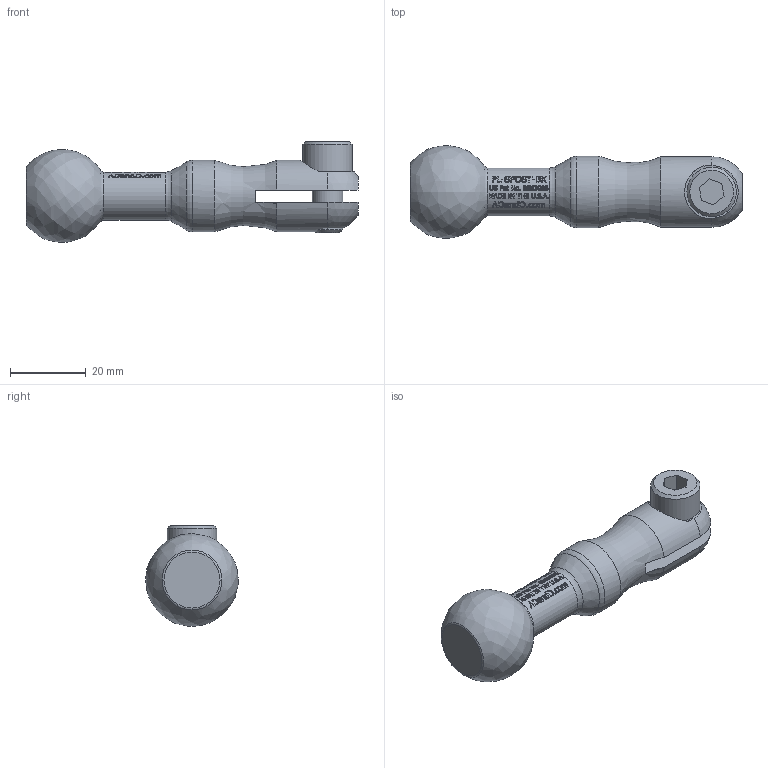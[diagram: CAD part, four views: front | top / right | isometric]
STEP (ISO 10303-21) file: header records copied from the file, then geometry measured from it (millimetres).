
FILE_DESCRIPTION(/* description */ (''),/* implementation_level */ '2;1');
FILE_NAME(/* name */ 'C:\Users\owner\Desktop\PL SERIES\PL-SPOSTBK.stp',/* time_stamp */ '2017-09-28T09:07:23-04:00',/* author */ ('owner'),/* organization */ (''),/* preprocessor_version */ 'ST-DEVELOPER v16.5',/* originating_system */ 'Autodesk Inventor 2017',/* authorisation */ '');
FILE_SCHEMA (('CONFIG_CONTROL_DESIGN'));
Length unit declared in the file: inch
Products named in the file (3): PL-SPOSTBK; 60055; 60040
Assembly tree (2 placements, depth 2):
  PL-SPOSTBK
    60055
    60040
Bounding box: 87.41 x 24.43 x 26.57 mm (x, y, z)
Volume: 20709.6 mm3; surface area: 7277.4 mm2
Topology: 2 solids, 2 shells, 820 faces, 2221 edges, 1478 vertices
Faces by surface type: bspline 401, plane 327, cylinder 81, torus 6, cone 3, sphere 2
Full cylindrical faces by diameter (mm): 6.655 x1, 8 x1, 8.357 x1, 12.611 x1, 13 x1, 18.796 x1
Entity records: 35985 total; most frequent: CARTESIAN_POINT 17655, ORIENTED_EDGE 4406, DIRECTION 2610, EDGE_CURVE 2203, VERTEX_POINT 1475, LINE 1060, VECTOR 1060, EDGE_LOOP 910
